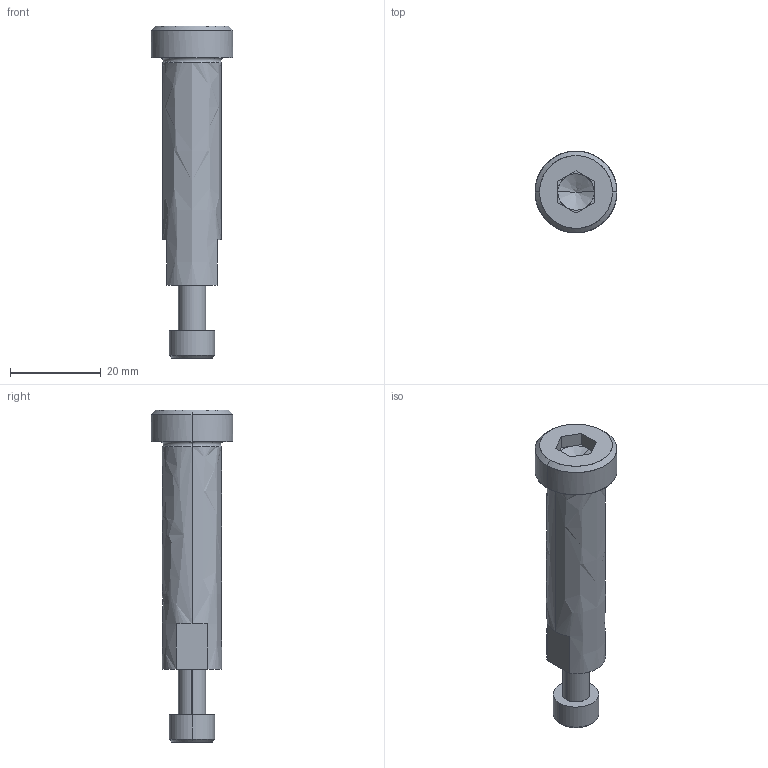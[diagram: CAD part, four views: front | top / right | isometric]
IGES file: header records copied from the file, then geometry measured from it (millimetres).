
Global section: file name: E:\UnigraphicsGraphicData\MISUMI_PRESS-PARTS\IGES\3d_sbt13-50_05072_r00.igs; native system: NX V5.0; preprocessor: UGS NX IGES V5.0; author: MISUMI; date: 20110105.162435; units: millimetre
Bounding box: 18 x 18 x 73 mm (x, y, z)
Surface area: 4175.1 mm2 (no closed solid volume)
Topology: 0 solids, 0 shells, 56 faces, 310 edges, 306 vertices
Faces by surface type: bspline 56
